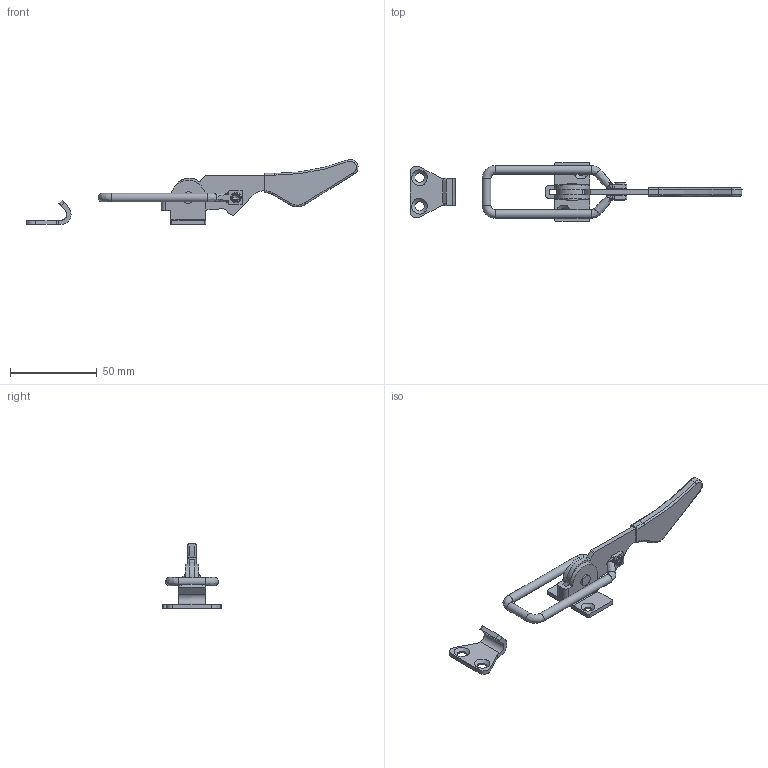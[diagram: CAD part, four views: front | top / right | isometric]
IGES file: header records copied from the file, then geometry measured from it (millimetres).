
Global section: file name: DR_C-M30; native system: Autodesk Inventor 2015; preprocessor: unknown; author: Administrator; date: 20180301.151432; units: millimetre
Bounding box: 191.61 x 34 x 37.5 mm (x, y, z)
Volume: 15804.7 mm3; surface area: 12873.9 mm2
Topology: 4 solids, 4 shells, 174 faces, 477 edges, 315 vertices
Faces by surface type: bspline 174
